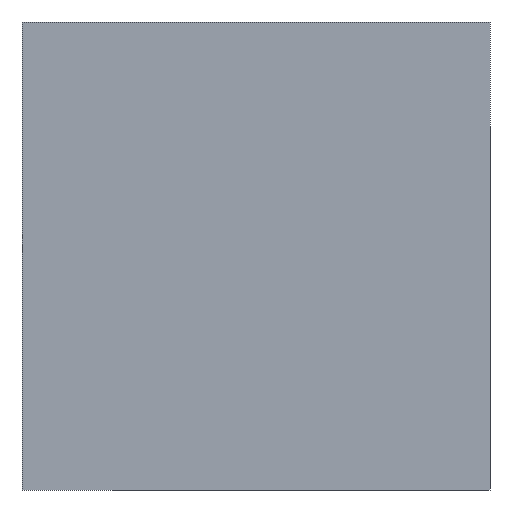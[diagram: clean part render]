
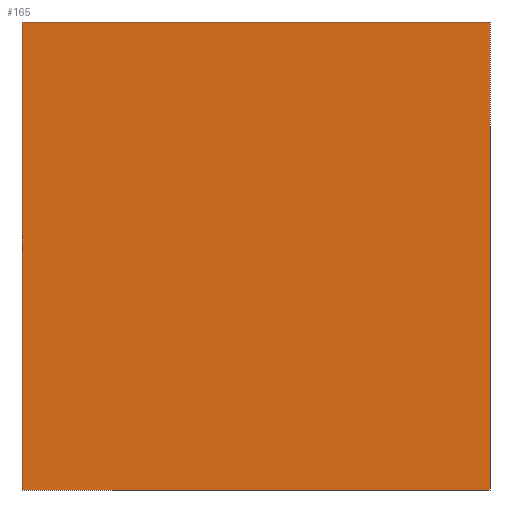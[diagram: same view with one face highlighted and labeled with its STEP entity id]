
A CAD part, front view. The second image highlights one B-rep face of the part: STEP entity #165.
In plain terms, the highlighted planar face has unit normal (0, -1, 0).
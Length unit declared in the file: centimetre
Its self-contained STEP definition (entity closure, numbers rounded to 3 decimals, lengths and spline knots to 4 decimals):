
#4 = DIRECTION ( 'NONE',  ( 0., 0., 1. ) ) ;
#10 = VECTOR ( 'NONE', #418, 100. ) ;
#11 = LINE ( 'NONE', #350, #452 ) ;
#31 = ORIENTED_EDGE ( 'NONE', *, *, #442, .F. ) ;
#34 = VECTOR ( 'NONE', #233, 100. ) ;
#40 = EDGE_CURVE ( 'NONE', #305, #221, #495, .T. ) ;
#46 = PLANE ( 'NONE',  #218 ) ;
#69 = VERTEX_POINT ( 'NONE', #309 ) ;
#73 = VERTEX_POINT ( 'NONE', #93 ) ;
#93 = CARTESIAN_POINT ( 'NONE',  ( 0., 0., 1000. ) ) ;
#103 = EDGE_CURVE ( 'NONE', #73, #305, #11, .T. ) ;
#111 = CARTESIAN_POINT ( 'NONE',  ( 0., 0., 0. ) ) ;
#165 = ADVANCED_FACE ( 'NONE', ( #234 ), #46, .F. ) ;
#192 = CARTESIAN_POINT ( 'NONE',  ( 1000., 0., 0. ) ) ;
#214 = EDGE_LOOP ( 'NONE', ( #328, #31, #454, #478 ) ) ;
#218 = AXIS2_PLACEMENT_3D ( 'NONE', #383, #226, #4 ) ;
#221 = VERTEX_POINT ( 'NONE', #192 ) ;
#226 = DIRECTION ( 'NONE',  ( 0., 1., 0. ) ) ;
#233 = DIRECTION ( 'NONE',  ( 1., 0., 0. ) ) ;
#234 = FACE_OUTER_BOUND ( 'NONE', #214, .T. ) ;
#238 = LINE ( 'NONE', #394, #34 ) ;
#253 = CARTESIAN_POINT ( 'NONE',  ( 0., 0., 0. ) ) ;
#255 = EDGE_CURVE ( 'NONE', #73, #69, #238, .T. ) ;
#305 = VERTEX_POINT ( 'NONE', #111 ) ;
#309 = CARTESIAN_POINT ( 'NONE',  ( 1000., 0., 1000. ) ) ;
#328 = ORIENTED_EDGE ( 'NONE', *, *, #40, .T. ) ;
#333 = CARTESIAN_POINT ( 'NONE',  ( 1000., 0., 1000. ) ) ;
#337 = LINE ( 'NONE', #333, #448 ) ;
#350 = CARTESIAN_POINT ( 'NONE',  ( 0., 0., 1000. ) ) ;
#383 = CARTESIAN_POINT ( 'NONE',  ( 0., 0., 1000. ) ) ;
#394 = CARTESIAN_POINT ( 'NONE',  ( 0., 0., 1000. ) ) ;
#418 = DIRECTION ( 'NONE',  ( 1., 0., 0. ) ) ;
#426 = DIRECTION ( 'NONE',  ( 0., 0., -1. ) ) ;
#442 = EDGE_CURVE ( 'NONE', #69, #221, #337, .T. ) ;
#448 = VECTOR ( 'NONE', #486, 100. ) ;
#452 = VECTOR ( 'NONE', #426, 100. ) ;
#454 = ORIENTED_EDGE ( 'NONE', *, *, #255, .F. ) ;
#478 = ORIENTED_EDGE ( 'NONE', *, *, #103, .T. ) ;
#486 = DIRECTION ( 'NONE',  ( 0., 0., -1. ) ) ;
#495 = LINE ( 'NONE', #253, #10 ) ;
